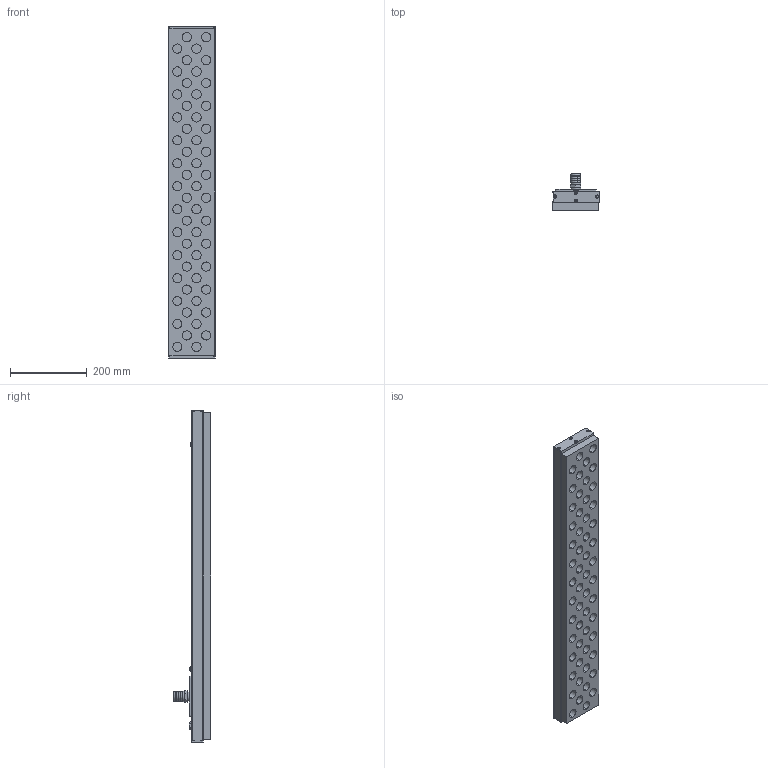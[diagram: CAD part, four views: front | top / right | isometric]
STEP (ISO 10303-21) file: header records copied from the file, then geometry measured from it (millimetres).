
FILE_DESCRIPTION (( 'STEP AP214' ), '1' );
FILE_NAME ('310 800 018.STEP', '2018-01-10T09:24:46', ( '' ), ( '' ), 'SwSTEP 2.0', 'SolidWorks 2017', '' );
FILE_SCHEMA (( 'AUTOMOTIVE_DESIGN' ));
Length unit declared in the file: millimetre
Products named in the file (1): 310 800 018
Bounding box: 121.5 x 98.5 x 868 mm (x, y, z)
Volume: 4727022.8 mm3; surface area: 417072 mm2
Topology: 1 solids, 1 shells, 632 faces, 1436 edges, 904 vertices
Faces by surface type: cylinder 296, plane 206, torus 86, cone 34, bspline 6, sphere 4
Entity records: 25322 total; most frequent: CARTESIAN_POINT 3547, DIRECTION 3444, ORIENTED_EDGE 2852, AXIS2_PLACEMENT_3D 1435, EDGE_CURVE 1426, VERTEX_POINT 898, CIRCLE 808, EDGE_LOOP 736
